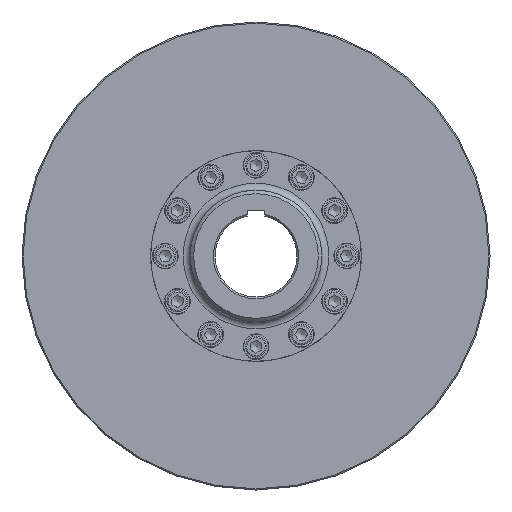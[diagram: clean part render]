
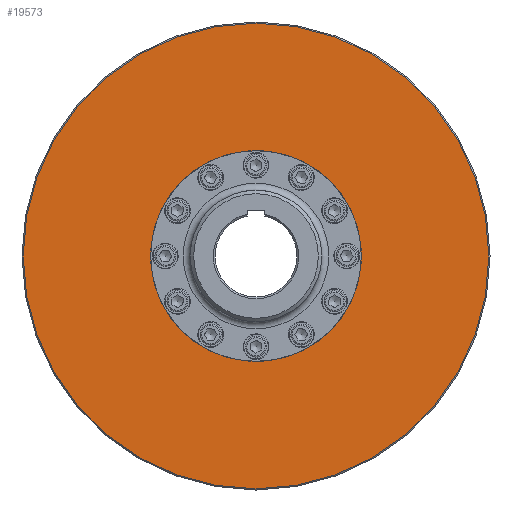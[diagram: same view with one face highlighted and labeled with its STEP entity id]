
A CAD part, left-side view. The second image highlights one B-rep face of the part: STEP entity #19573.
In plain terms, the highlighted planar face has unit normal (-1, 0, 0).
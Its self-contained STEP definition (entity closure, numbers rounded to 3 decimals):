
#3154=FACE_BOUND('',#5037,.T.);
#3644=FACE_OUTER_BOUND('',#5036,.T.);
#5036=EDGE_LOOP('',(#12625));
#5037=EDGE_LOOP('',(#12626));
#6750=CIRCLE('',#20995,398.);
#6751=CIRCLE('',#20996,174.5);
#8153=VERTEX_POINT('',#30183);
#8154=VERTEX_POINT('',#30185);
#9914=EDGE_CURVE('',#8153,#8153,#6750,.T.);
#9915=EDGE_CURVE('',#8154,#8154,#6751,.T.);
#12625=ORIENTED_EDGE('',*,*,#9914,.F.);
#12626=ORIENTED_EDGE('',*,*,#9915,.T.);
#17747=PLANE('',#20994);
#19573=ADVANCED_FACE('',(#3644,#3154),#17747,.F.);
#20994=AXIS2_PLACEMENT_3D('',#30182,#23875,#23876);
#20995=AXIS2_PLACEMENT_3D('',#30184,#23877,#23878);
#20996=AXIS2_PLACEMENT_3D('',#30186,#23879,#23880);
#23875=DIRECTION('center_axis',(1.,0.,0.));
#23876=DIRECTION('ref_axis',(0.,1.,0.));
#23877=DIRECTION('center_axis',(1.,0.,0.));
#23878=DIRECTION('ref_axis',(0.,-1.,0.));
#23879=DIRECTION('center_axis',(1.,0.,0.));
#23880=DIRECTION('ref_axis',(0.,0.259,0.966));
#30182=CARTESIAN_POINT('Origin',(-123.75,640.121,0.));
#30183=CARTESIAN_POINT('',(-123.75,398.,0.));
#30184=CARTESIAN_POINT('Origin',(-123.75,0.,
0.));
#30185=CARTESIAN_POINT('',(-123.75,-45.164,-168.554));
#30186=CARTESIAN_POINT('Origin',(-123.75,0.,0.));
